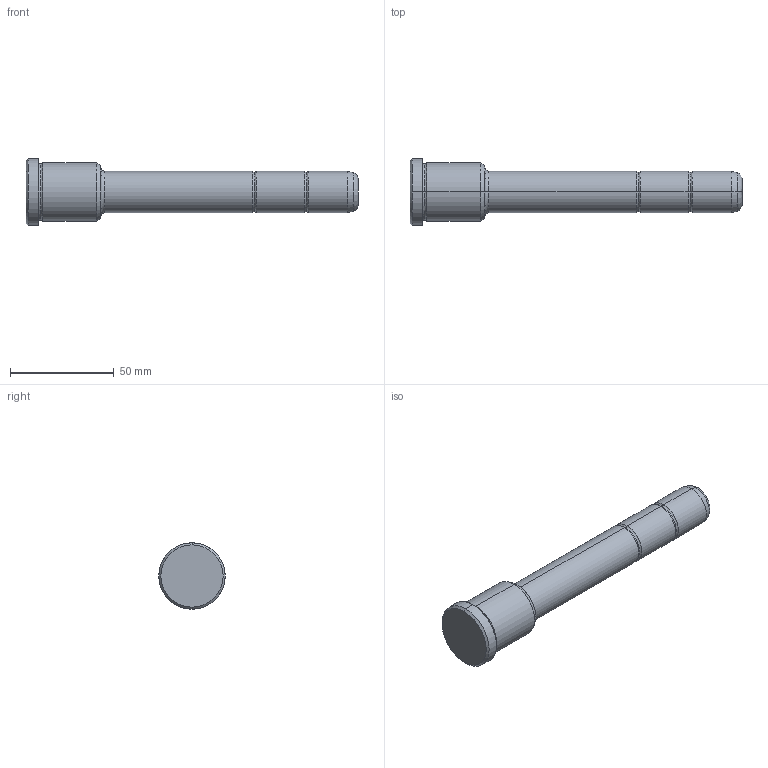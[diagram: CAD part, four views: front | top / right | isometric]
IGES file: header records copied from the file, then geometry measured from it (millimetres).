
Start section: START RECORD GO HERE.
Global section: file name: 351-20X36X160.igs; native system: DASSAULT SYSTEMES CATIA V5 R20 - www.3ds.com; preprocessor: CATIA Version 5 Release 20 ; author: Utente; organization: NB04-ASUS; date: 20210827.144312; units: millimetre
Bounding box: 160 x 32 x 32 mm (x, y, z)
Surface area: 12375.9 mm2 (no closed solid volume)
Topology: 0 solids, 0 shells, 36 faces, 204 edges, 204 vertices
Faces by surface type: revolution 32, plane 4
